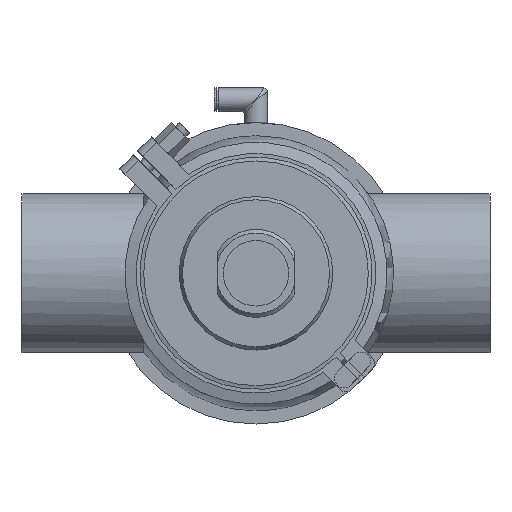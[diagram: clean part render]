
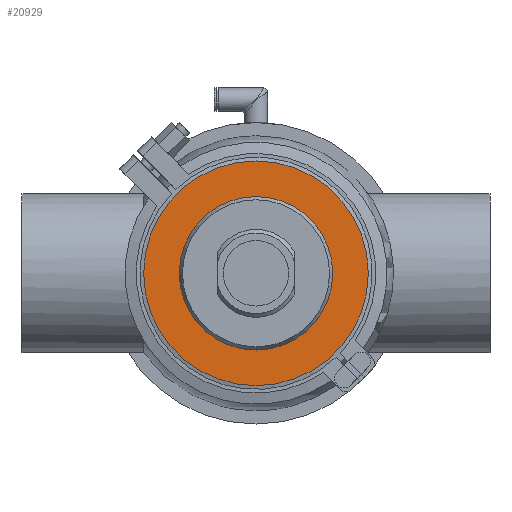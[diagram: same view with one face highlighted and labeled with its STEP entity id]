
A CAD part, front view. The second image highlights one B-rep face of the part: STEP entity #20929.
In plain terms, the highlighted planar face has unit normal (0, -1, 0).
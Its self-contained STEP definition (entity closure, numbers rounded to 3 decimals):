
#594 = PLANE ( 'NONE',  #13477 ) ;
#1241 = CARTESIAN_POINT ( 'NONE',  ( 0., -13., 0. ) ) ;
#1287 = ORIENTED_EDGE ( 'NONE', *, *, #1645, .T. ) ;
#1545 = CARTESIAN_POINT ( 'NONE',  ( 0., -13., 60. ) ) ;
#1645 = EDGE_CURVE ( 'NONE', #5884, #5884, #7229, .T. ) ;
#2058 = AXIS2_PLACEMENT_3D ( 'NONE', #20682, #9764, #9885 ) ;
#4620 = DIRECTION ( 'NONE',  ( 0., 1., 0. ) ) ;
#5884 = VERTEX_POINT ( 'NONE', #18928 ) ;
#6541 = EDGE_LOOP ( 'NONE', ( #1287 ) ) ;
#7229 = CIRCLE ( 'NONE', #2058, 41. ) ;
#7691 = DIRECTION ( 'NONE',  ( 0., -1., 0. ) ) ;
#9764 = DIRECTION ( 'NONE',  ( 0., 1., 0. ) ) ;
#9874 = EDGE_CURVE ( 'NONE', #14146, #14146, #20016, .T. ) ;
#9885 = DIRECTION ( 'NONE',  ( 0., 0., 1. ) ) ;
#9984 = AXIS2_PLACEMENT_3D ( 'NONE', #1241, #4620, #15596 ) ;
#11714 = ORIENTED_EDGE ( 'NONE', *, *, #9874, .F. ) ;
#11777 = FACE_OUTER_BOUND ( 'NONE', #17854, .T. ) ;
#12859 = CARTESIAN_POINT ( 'NONE',  ( -60., -13., 0. ) ) ;
#13477 = AXIS2_PLACEMENT_3D ( 'NONE', #12859, #7691, #22230 ) ;
#14146 = VERTEX_POINT ( 'NONE', #1545 ) ;
#15596 = DIRECTION ( 'NONE',  ( 0., 0., 1. ) ) ;
#17854 = EDGE_LOOP ( 'NONE', ( #11714 ) ) ;
#18928 = CARTESIAN_POINT ( 'NONE',  ( 0., -13., 41. ) ) ;
#20016 = CIRCLE ( 'NONE', #9984, 60. ) ;
#20682 = CARTESIAN_POINT ( 'NONE',  ( 0., -13., 0. ) ) ;
#20929 = ADVANCED_FACE ( 'NONE', ( #21808, #11777 ), #594, .T. ) ;
#21808 = FACE_BOUND ( 'NONE', #6541, .T. ) ;
#22230 = DIRECTION ( 'NONE',  ( 0., 0., -1. ) ) ;
